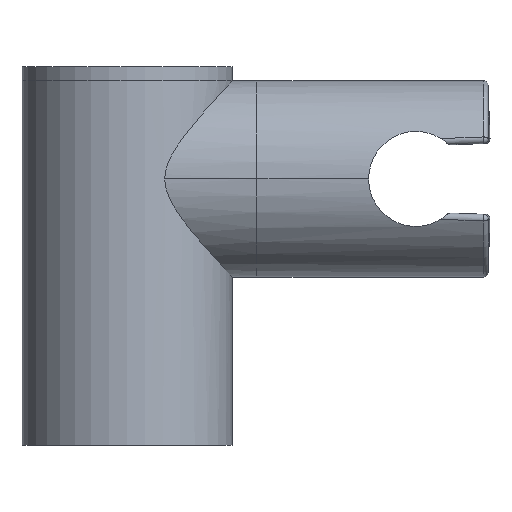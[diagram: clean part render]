
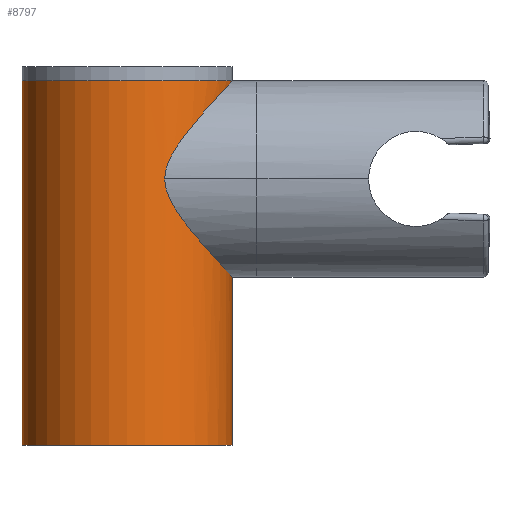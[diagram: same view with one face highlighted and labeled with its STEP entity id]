
A CAD part, front view. The second image highlights one B-rep face of the part: STEP entity #8797.
In plain terms, the highlighted cylindrical face has radius 22.5 mm (diameter 45 mm), a partial arc.
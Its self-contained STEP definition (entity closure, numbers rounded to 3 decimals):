
#7714=CARTESIAN_POINT('',(22.5,0.,38.));
#7715=CARTESIAN_POINT('',(22.5,-0.443,38.));
#7716=CARTESIAN_POINT('',(22.474,-1.331,38.028));
#7717=CARTESIAN_POINT('',(22.356,-2.661,38.155));
#7718=CARTESIAN_POINT('',(22.156,-3.996,38.369));
#7719=CARTESIAN_POINT('',(21.874,-5.331,38.672));
#7720=CARTESIAN_POINT('',(21.504,-6.67,39.071));
#7721=CARTESIAN_POINT('',(21.044,-8.006,39.568));
#7722=CARTESIAN_POINT('',(20.487,-9.342,40.173));
#7723=CARTESIAN_POINT('',(19.83,-10.667,40.889));
#7724=CARTESIAN_POINT('',(19.066,-11.979,41.728));
#7725=CARTESIAN_POINT('',(18.194,-13.268,42.695));
#7726=CARTESIAN_POINT('',(17.21,-14.523,43.8));
#7727=CARTESIAN_POINT('',(16.124,-15.721,45.04));
#7728=CARTESIAN_POINT('',(14.933,-16.857,46.432));
#7729=CARTESIAN_POINT('',(13.667,-17.897,47.963));
#7730=CARTESIAN_POINT('',(12.455,-18.755,49.503));
#7731=CARTESIAN_POINT('',(11.395,-19.412,50.943));
#7732=CARTESIAN_POINT('',(10.512,-19.9,52.249));
#7733=CARTESIAN_POINT('',(9.778,-20.269,53.462));
#7734=CARTESIAN_POINT('',(9.194,-20.539,54.577));
#7735=CARTESIAN_POINT('',(8.748,-20.731,55.602));
#7736=CARTESIAN_POINT('',(8.43,-20.862,56.538));
#7737=CARTESIAN_POINT('',(8.22,-20.945,57.404));
#7738=CARTESIAN_POINT('',(8.103,-20.99,58.214));
#7739=CARTESIAN_POINT('',(8.078,-21.,58.741));
#7740=CARTESIAN_POINT('',(8.078,-21.,59.));
#7742=DIRECTION('',(0.,0.,1.));
#7743=VECTOR('',#7742,36.);
#7744=CARTESIAN_POINT('',(22.5,0.,2.));
#7745=LINE('',#7744,#7743);
#7746=DIRECTION('',(0.,0.,-1.));
#7747=VECTOR('',#7746,78.);
#7748=CARTESIAN_POINT('',(-22.5,0.,80.));
#7749=LINE('',#7748,#7747);
#7805=CARTESIAN_POINT('',(0.,0.,2.));
#7806=DIRECTION('',(0.,0.,1.));
#7807=DIRECTION('',(-1.,0.,0.));
#7808=AXIS2_PLACEMENT_3D('',#7805,#7806,#7807);
#7823=CARTESIAN_POINT('',(0.,0.,80.));
#7824=DIRECTION('',(0.,0.,-1.));
#7825=DIRECTION('',(1.,0.,0.));
#7826=AXIS2_PLACEMENT_3D('',#7823,#7824,#7825);
#7874=CARTESIAN_POINT('',(8.078,-21.,59.));
#7875=CARTESIAN_POINT('',(8.078,-21.,59.258));
#7876=CARTESIAN_POINT('',(8.103,-20.99,59.786));
#7877=CARTESIAN_POINT('',(8.22,-20.945,60.595));
#7878=CARTESIAN_POINT('',(8.429,-20.862,61.46));
#7879=CARTESIAN_POINT('',(8.747,-20.732,62.396));
#7880=CARTESIAN_POINT('',(9.192,-20.539,63.421));
#7881=CARTESIAN_POINT('',(9.777,-20.269,64.537));
#7882=CARTESIAN_POINT('',(10.512,-19.9,65.75));
#7883=CARTESIAN_POINT('',(11.395,-19.412,67.056));
#7884=CARTESIAN_POINT('',(12.461,-18.751,68.505));
#7885=CARTESIAN_POINT('',(13.682,-17.886,70.056));
#7886=CARTESIAN_POINT('',(14.954,-16.839,71.593));
#7887=CARTESIAN_POINT('',(16.137,-15.707,72.975));
#7888=CARTESIAN_POINT('',(17.221,-14.51,74.213));
#7889=CARTESIAN_POINT('',(18.204,-13.255,75.315));
#7890=CARTESIAN_POINT('',(19.074,-11.968,76.28));
#7891=CARTESIAN_POINT('',(19.835,-10.657,77.116));
#7892=CARTESIAN_POINT('',(20.491,-9.332,77.832));
#7893=CARTESIAN_POINT('',(21.046,-7.999,78.435));
#7894=CARTESIAN_POINT('',(21.506,-6.663,78.931));
#7895=CARTESIAN_POINT('',(21.875,-5.326,79.329));
#7896=CARTESIAN_POINT('',(22.157,-3.992,79.632));
#7897=CARTESIAN_POINT('',(22.356,-2.659,79.845));
#7898=CARTESIAN_POINT('',(22.474,-1.329,79.972));
#7899=CARTESIAN_POINT('',(22.5,-0.442,80.));
#7900=CARTESIAN_POINT('',(22.5,0.,80.));
#8440=CARTESIAN_POINT('',(-22.5,0.,80.));
#8441=CARTESIAN_POINT('',(-22.5,0.,2.));
#8442=VERTEX_POINT('',#8440);
#8443=VERTEX_POINT('',#8441);
#8444=VERTEX_POINT('',#7874);
#8445=VERTEX_POINT('',#7900);
#8446=VERTEX_POINT('',#7714);
#8485=CARTESIAN_POINT('',(22.5,0.,2.));
#8486=VERTEX_POINT('',#8485);
#8783=CARTESIAN_POINT('',(0.,0.,0.44));
#8784=DIRECTION('',(0.,0.,1.));
#8785=DIRECTION('',(1.,0.,0.));
#8786=AXIS2_PLACEMENT_3D('',#8783,#8784,#8785);
#8787=CYLINDRICAL_SURFACE('',#8786,22.5);
#8788=ORIENTED_EDGE('',*,*,#8705,.F.);
#8789=ORIENTED_EDGE('',*,*,#8694,.F.);
#8790=ORIENTED_EDGE('',*,*,#8774,.F.);
#8792=ORIENTED_EDGE('',*,*,#8791,.F.);
#8793=ORIENTED_EDGE('',*,*,#8670,.F.);
#8794=ORIENTED_EDGE('',*,*,#8687,.F.);
#8795=EDGE_LOOP('',(#8788,#8789,#8790,#8792,#8793,#8794));
#8796=FACE_OUTER_BOUND('',#8795,.F.);
#8797=ADVANCED_FACE('',(#8796),#8787,.T.);
#7741=B_SPLINE_CURVE_WITH_KNOTS('',3,(#7714,#7715,#7716,#7717,#7718,#7719,#7720,
#7721,#7722,#7723,#7724,#7725,#7726,#7727,#7728,#7729,#7730,#7731,#7732,#7733,
#7734,#7735,#7736,#7737,#7738,#7739,#7740),.UNSPECIFIED.,.F.,.F.,(4,1,1,1,1,1,1,
1,1,1,1,1,1,1,1,1,1,1,1,1,1,1,1,1,4),(0.,0.042,0.083,
0.125,0.167,0.208,0.25,0.292,
0.333,0.375,0.417,0.458,0.5,
0.542,0.583,0.625,0.667,0.708,
0.75,0.792,0.833,0.875,0.917,
0.958,1.),.UNSPECIFIED.);
#7809=CIRCLE('',#7808,22.5);
#7827=CIRCLE('',#7826,22.5);
#7901=B_SPLINE_CURVE_WITH_KNOTS('',3,(#7874,#7875,#7876,#7877,#7878,#7879,#7880,
#7881,#7882,#7883,#7884,#7885,#7886,#7887,#7888,#7889,#7890,#7891,#7892,#7893,
#7894,#7895,#7896,#7897,#7898,#7899,#7900),.UNSPECIFIED.,.F.,.F.,(4,1,1,1,1,1,1,
1,1,1,1,1,1,1,1,1,1,1,1,1,1,1,1,1,4),(0.,0.042,0.083,
0.125,0.167,0.208,0.25,0.292,
0.333,0.375,0.417,0.458,0.5,
0.542,0.583,0.625,0.667,0.708,
0.75,0.792,0.833,0.875,0.917,
0.958,1.),.UNSPECIFIED.);
#8670=EDGE_CURVE('',#8446,#8444,#7741,.T.);
#8687=EDGE_CURVE('',#8486,#8446,#7745,.T.);
#8694=EDGE_CURVE('',#8442,#8443,#7749,.T.);
#8705=EDGE_CURVE('',#8443,#8486,#7809,.T.);
#8774=EDGE_CURVE('',#8445,#8442,#7827,.T.);
#8791=EDGE_CURVE('',#8444,#8445,#7901,.T.);
